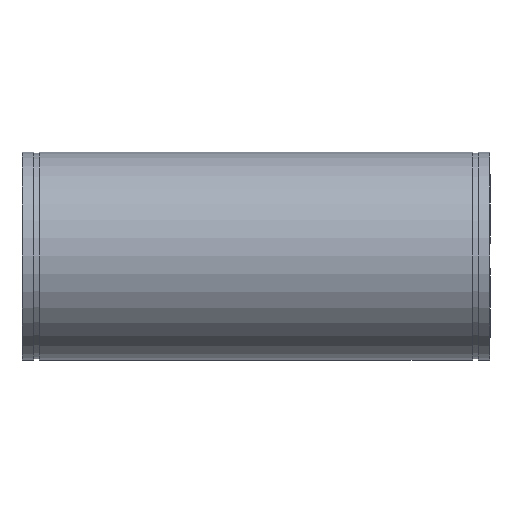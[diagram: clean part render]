
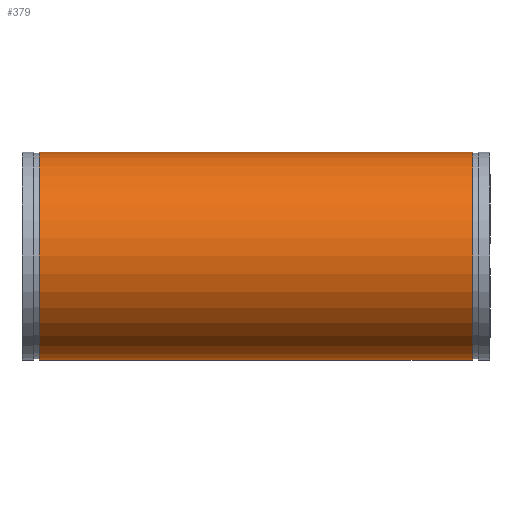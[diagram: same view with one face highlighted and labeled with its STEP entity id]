
A CAD part, left-side view. The second image highlights one B-rep face of the part: STEP entity #379.
In plain terms, the highlighted cylindrical face has radius 228.6 mm (diameter 457.2 mm), a full revolution.
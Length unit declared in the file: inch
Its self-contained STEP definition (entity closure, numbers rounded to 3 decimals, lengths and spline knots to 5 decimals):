
#45=ELLIPSE('',#439,23.51813,9.);
#46=ELLIPSE('',#440,23.51813,9.);
#47=ELLIPSE('',#441,9.74153,9.);
#57=LINE('',#676,#68);
#68=VECTOR('',#544,9.);
#79=CYLINDRICAL_SURFACE('',#438,9.);
#90=FACE_BOUND('',#131,.T.);
#105=FACE_OUTER_BOUND('',#130,.T.);
#130=EDGE_LOOP('',(#292,#293,#294,#295));
#131=EDGE_LOOP('',(#296,#297,#298));
#154=CIRCLE('',#426,9.);
#155=CIRCLE('',#428,9.);
#181=VERTEX_POINT('',#653);
#182=VERTEX_POINT('',#656);
#189=VERTEX_POINT('',#677);
#190=VERTEX_POINT('',#678);
#191=VERTEX_POINT('',#680);
#218=EDGE_CURVE('',#181,#181,#154,.T.);
#219=EDGE_CURVE('',#182,#182,#155,.T.);
#228=EDGE_CURVE('',#181,#182,#57,.T.);
#229=EDGE_CURVE('',#189,#190,#45,.T.);
#230=EDGE_CURVE('',#190,#191,#46,.T.);
#231=EDGE_CURVE('',#191,#189,#47,.T.);
#292=ORIENTED_EDGE('',*,*,#218,.T.);
#293=ORIENTED_EDGE('',*,*,#228,.T.);
#294=ORIENTED_EDGE('',*,*,#219,.T.);
#295=ORIENTED_EDGE('',*,*,#228,.F.);
#296=ORIENTED_EDGE('',*,*,#229,.T.);
#297=ORIENTED_EDGE('',*,*,#230,.T.);
#298=ORIENTED_EDGE('',*,*,#231,.T.);
#379=ADVANCED_FACE('',(#105,#90),#79,.T.);
#426=AXIS2_PLACEMENT_3D('',#654,#516,#517);
#428=AXIS2_PLACEMENT_3D('',#657,#520,#521);
#438=AXIS2_PLACEMENT_3D('',#675,#542,#543);
#439=AXIS2_PLACEMENT_3D('',#679,#545,#546);
#440=AXIS2_PLACEMENT_3D('',#681,#547,#548);
#441=AXIS2_PLACEMENT_3D('',#682,#549,#550);
#516=DIRECTION('center_axis',(0.,1.,0.));
#517=DIRECTION('ref_axis',(1.,0.,0.));
#520=DIRECTION('center_axis',(0.,-1.,0.));
#521=DIRECTION('ref_axis',(1.,0.,0.));
#542=DIRECTION('center_axis',(0.,-1.,0.));
#543=DIRECTION('ref_axis',(1.,0.,0.));
#544=DIRECTION('',(0.,1.,0.));
#545=DIRECTION('center_axis',(-0.924,0.383,0.));
#546=DIRECTION('ref_axis',(-0.383,-0.924,0.));
#547=DIRECTION('center_axis',(-0.924,0.383,0.));
#548=DIRECTION('ref_axis',(-0.383,-0.924,0.));
#549=DIRECTION('center_axis',(-0.383,-0.924,0.));
#550=DIRECTION('ref_axis',(0.924,-0.383,0.));
#653=CARTESIAN_POINT('',(-9.,-7.,0.));
#654=CARTESIAN_POINT('Origin',(0.,-7.,0.));
#656=CARTESIAN_POINT('',(-9.,30.5,0.));
#657=CARTESIAN_POINT('Origin',(0.,30.5,0.));
#675=CARTESIAN_POINT('Origin',(0.,32.,0.));
#676=CARTESIAN_POINT('',(-9.,32.,0.));
#677=CARTESIAN_POINT('',(0.,0.,9.));
#678=CARTESIAN_POINT('',(9.,21.72792,0.));
#679=CARTESIAN_POINT('Origin',(0.,0.,0.));
#680=CARTESIAN_POINT('',(0.,0.,-9.));
#681=CARTESIAN_POINT('Origin',(0.,0.,0.));
#682=CARTESIAN_POINT('Origin',(0.,0.,0.));
